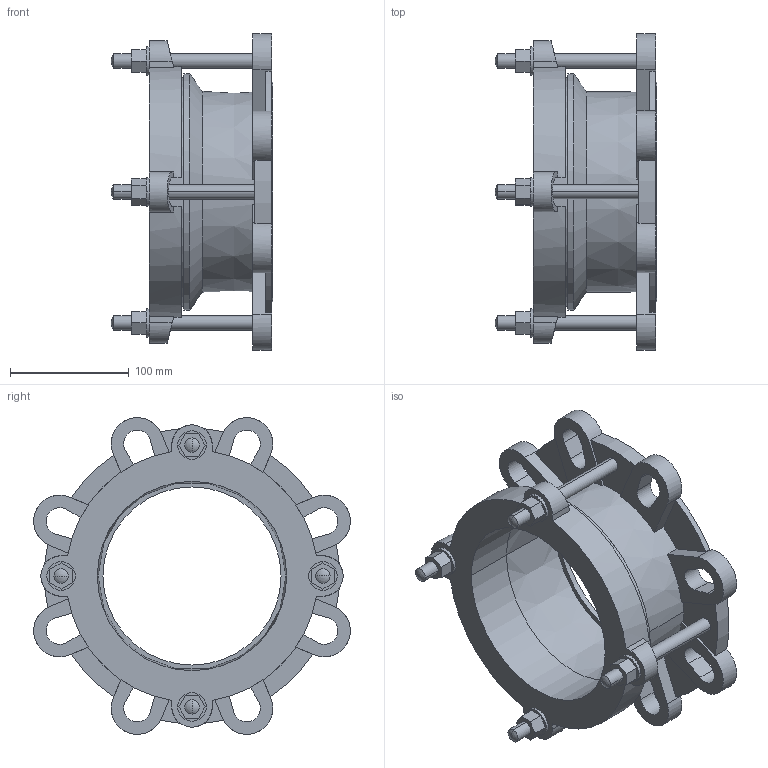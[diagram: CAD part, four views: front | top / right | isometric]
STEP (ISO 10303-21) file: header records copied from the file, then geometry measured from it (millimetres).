
FILE_DESCRIPTION((''),'2;1');
FILE_NAME('BIM_12419_5','2018-10-05T',('MReader'),(''),'CREO PARAMETRIC BY PTC INC, 2016130','CREO PARAMETRIC BY PTC INC, 2016130','');
FILE_SCHEMA(('CONFIG_CONTROL_DESIGN'));
Length unit declared in the file: millimetre
Products named in the file (1): BIM_12419_5
Bounding box: 136 x 266.61 x 266.61 mm (x, y, z)
Volume: 1131324.2 mm3; surface area: 249553.3 mm2
Topology: 1 solids, 1 shells, 213 faces, 578 edges, 374 vertices
Faces by surface type: plane 121, cylinder 78, sphere 8, cone 6
Entity records: 6866 total; most frequent: CARTESIAN_POINT 1299, DIRECTION 1174, ORIENTED_EDGE 1140, EDGE_CURVE 570, AXIS2_PLACEMENT_3D 415, VERTEX_POINT 374, VECTOR 344, LINE 344
